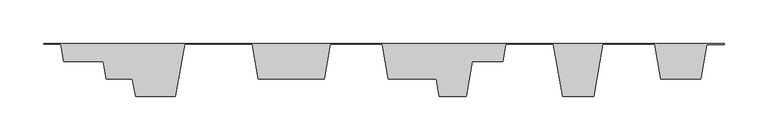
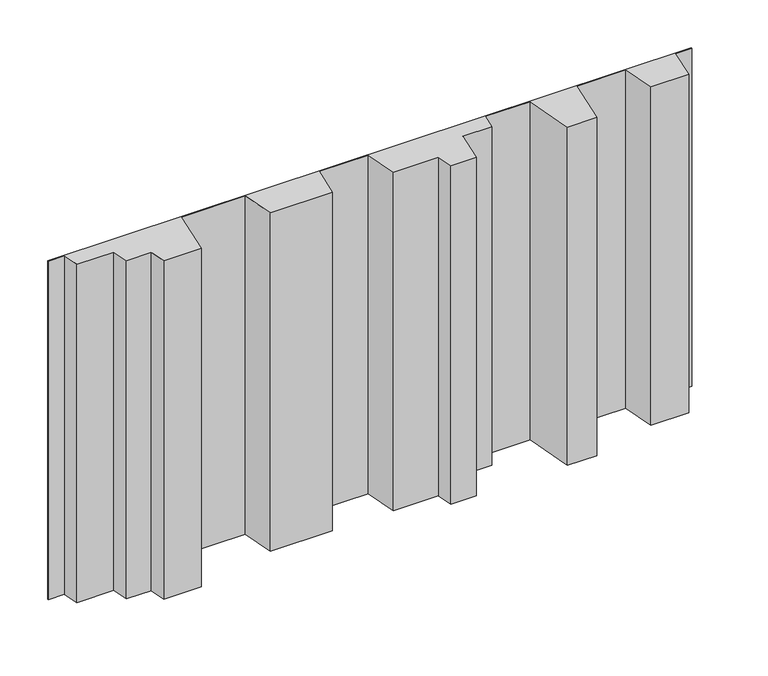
"""IFC4 building model written with IfcOpenShell, lengths in millimetres: plate geometry, ATELIERS 3S_NEW YORK MANHATTAN 780_VERTICAL : AZURO."""

from ifc_helpers import new_model, si_unit, origin, origin_with_axes, place, context, project, spatial, polyline, outline, extrude, source, transform, mapped, element, save


def plate_947a67ea(model_context):
    return source(origin(), model_context, "Body", "SweptSolid", [
        extrude(outline(polyline([(-370.3146624, -0.864757), (-390.0, -0.864757), (-390.0, 0.0), (390.0, 0.0), (390.0, -1.0), (369.9808453, -1.0), (362.9516131, -40.864757), (317.3222884, -40.864757), (310.2692092, -0.864757), (250.8985339, -0.864757), (240.318915, -60.864757), (204.6895903, -60.864757), (194.1099715, -0.864757), (139.7392962, -0.864757), (136.2127566, -20.864757), (101.2127566, -20.864757), (94.1596773, -60.864757), (63.5303526, -60.864757), (60.003813, -40.864757), (5.003813, -40.864757), (-2.0492662, -0.864757), (-61.4199415, -0.864757), (-68.4730207, -40.864757), (-144.1023454, -40.864757), (-151.1554247, -0.864757), (-228.5261, -0.864757), (-239.1057188, -60.864757), (-284.7350435, -60.864757), (-288.2615831, -40.864757), (-318.2615831, -40.864757), (-321.7881227, -20.864757), (-366.7881227, -20.864757), (-370.3146624, -0.864757)])), origin_with_axes(), (0.0, 0.0, 1.0), 433.4619218),
    ])


if __name__ == "__main__":
    model = new_model("IFC4")
    model_context = context("Model", 3, world=origin())
    ifc_project = project(units=[si_unit("LENGTHUNIT", "METRE", prefix="MILLI")], contexts=[model_context])
    site = spatial("IfcSite", under=ifc_project)
    building = spatial("IfcBuilding", under=site)
    placement = place(None, origin())
    plate_shape = plate_947a67ea(model_context)
    element("IfcPlate", 1, ObjectType="ATELIERS 3S_NEW YORK MANHATTAN 780_VERTICAL : AZURO", at=placement, inside=building, context=model_context, shape_type="MappedRepresentation", body=[
        mapped(plate_shape, transform((0.0, 0.0, 0.0), x_axis=(1.0, 0.0, 0.0), y_axis=(0.0, 1.0, 0.0), z_axis=(0.0, 0.0, 1.0))),
    ])
    save(model, "model.ifc")
